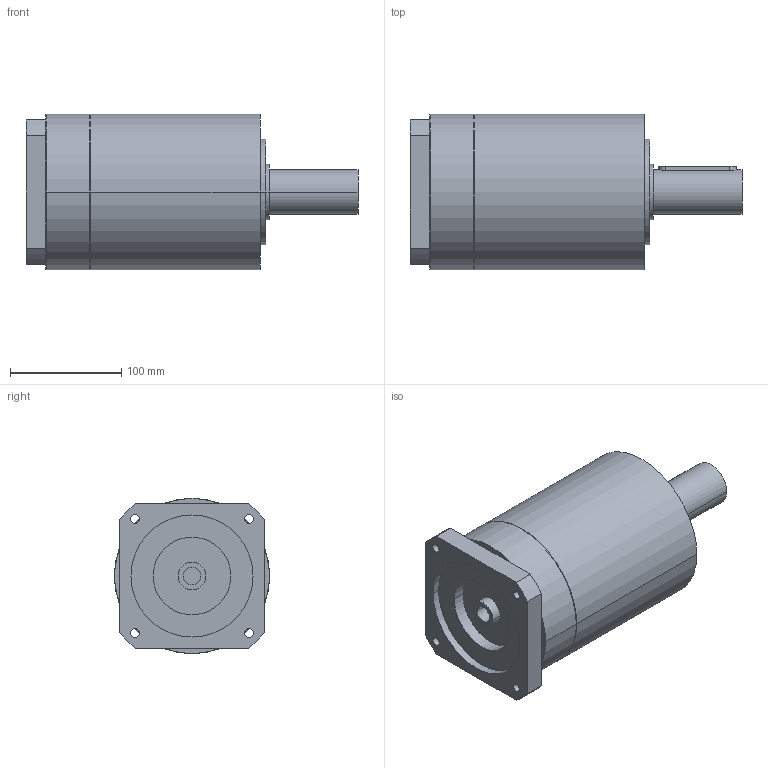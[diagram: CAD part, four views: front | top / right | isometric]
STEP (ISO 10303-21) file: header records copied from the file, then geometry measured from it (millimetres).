
FILE_DESCRIPTION(('CoCreate Modeling STEP Export'),'2;1');
FILE_NAME('GPR150_ig-9-12-16-20-28-35_40_B14_15.87_P08.stp','2014-08-19T17:02:48',(''),(''),'CoCreate Modeling STEP processor for AP214 (Solid Model)','CoCreate Modeling 16.00C 25-Feb-2009 (C) Parametric Technology GmbH','');
FILE_SCHEMA(('AUTOMOTIVE_DESIGN { 1 0 10303 214 1 1 1 1 }'));
Length unit declared in the file: millimetre
Products named in the file (2): GPR150_ig-9-12-16-20-28-35_40_B14_15.87_P08
Assembly tree (1 placements, depth 2):
  GPR150_ig-9-12-16-20-28-35_40_B14_15.87_P08
    GPR150_ig-9-12-16-20-28-35_40_B14_15.87_P08
Bounding box: 299 x 140 x 140 mm (x, y, z)
Volume: 3282906.5 mm3; surface area: 154943.5 mm2
Topology: 1 solids, 1 shells, 81 faces, 216 edges, 144 vertices
Faces by surface type: cylinder 42, plane 33, cone 6
Entity records: 2145 total; most frequent: ORIENTED_EDGE 428, CARTESIAN_POINT 407, DIRECTION 280, EDGE_CURVE 214, VERTEX_POINT 144, AXIS2_PLACEMENT_3D 105, EDGE_LOOP 98, FACE_OUTER_BOUND 81
